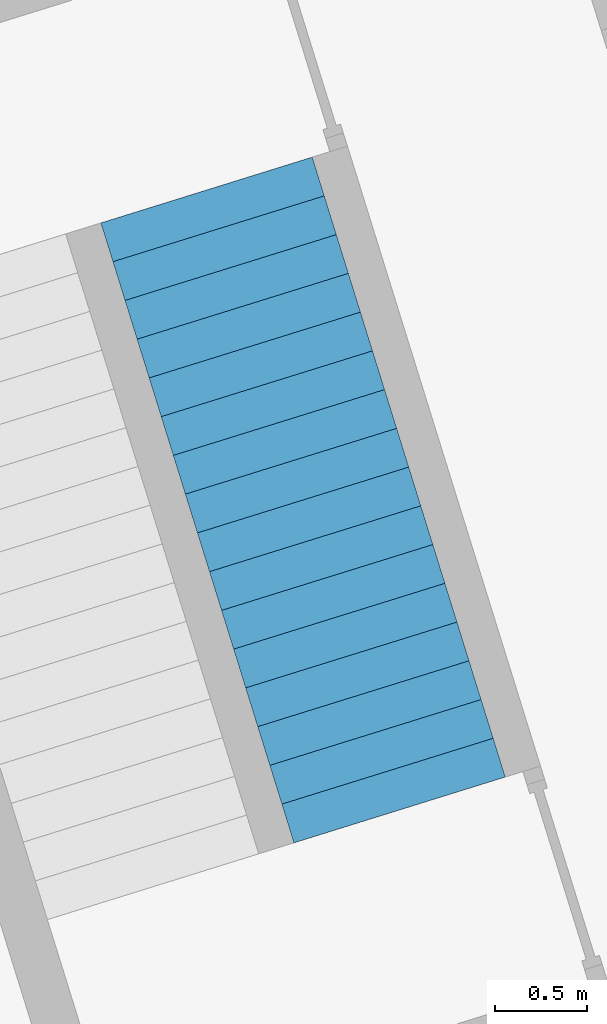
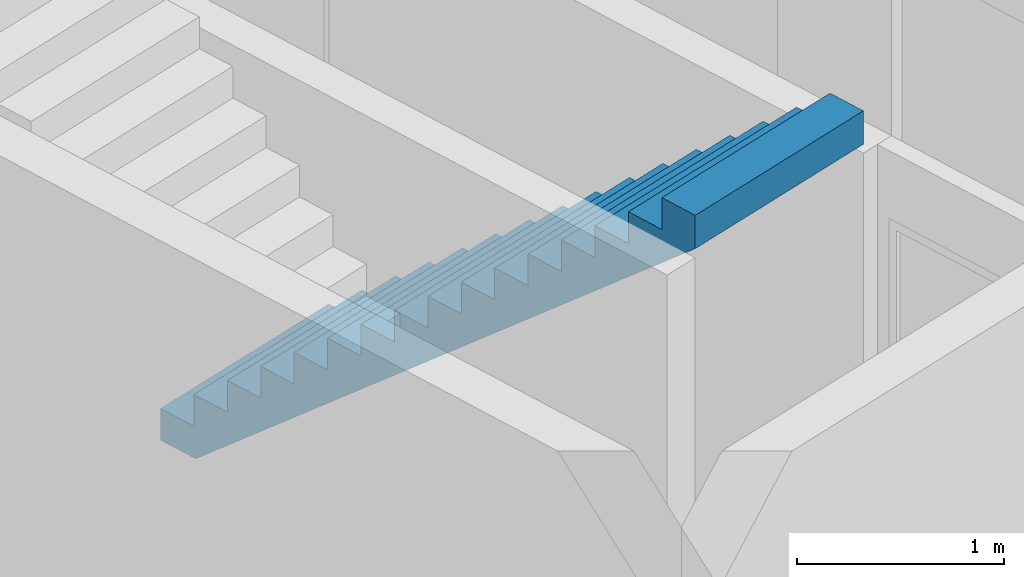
# One storey, part 4 of 4: 1 stair flight, 1 element without a shape of its own.
"""IFC4 building model written with IfcOpenShell, lengths in metres."""

from ifc_helpers import new_model, entity, si_unit, converted_unit, direction, frame, origin, place, context, subcontext, project, spatial, polygons, material, type_object, element, aggregate, save


model = new_model("IFC4")

# Units and contexts
model_context = context("Model", 3, precision=1e-05, world=origin(), true_north=direction((6.12323399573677e-17, 1.0)))
body_context = subcontext(model_context, "Body", "Model", "MODEL_VIEW")
ifc_project = project(units=[si_unit("LENGTHUNIT", "METRE"), si_unit("AREAUNIT", "SQUARE_METRE"), si_unit("VOLUMEUNIT", "CUBIC_METRE"), converted_unit("PLANEANGLEUNIT", "DEGREE", entity("IfcPlaneAngleMeasure", 0.0174532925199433), si_unit("PLANEANGLEUNIT", "RADIAN"), dimensions=[0, 0, 0, 0, 0, 0, 0])], contexts=[model_context])

# Site, building, storey
site_placement = place(None, frame((13.1347999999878, 11.9886000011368, 0.0), z_axis=(0.0, 0.0, 1.0), x_axis=(0.954770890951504, 0.297342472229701, 0.0)))
site = spatial("IfcSite", under=ifc_project, at=site_placement, Name="Schiehaven", CompositionType="ELEMENT")
building_placement = place(site_placement, origin())
building = spatial("IfcBuilding", under=site, at=building_placement, Name="VORM huis", CompositionType="ELEMENT")
storey_placement = place(building_placement, frame((0.0, 0.0, 6.9)))
storey = spatial("IfcBuildingStorey", under=building, at=storey_placement, Name="02 tweede verdieping", CompositionType="ELEMENT", Elevation=6.9)

# Stair, stair flight
stair_type = type_object("IfcStairType", Name="Trap", PredefinedType="STRAIGHT_RUN_STAIR")
stair_placement = place(storey_placement, origin())
stair = element("IfcStair", 1, at=stair_placement, inside=storey, type_object=stair_type, Name="Hoofdtrap", ObjectType="Trap", PredefinedType="STRAIGHT_RUN_STAIR")
ifc_material = material(Name="beton_gewapend_prefab-element", Category="Miscellaneous")
stair_flight_type = type_object("IfcStairFlightType", Name="Monolithic Run:NLRS_24_STRR_trap-beton prefab-monolithisch-recht_gen_rsf", PredefinedType="STRAIGHT")
stair_flight_placement = place(stair_placement, frame((66.5250000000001, 15.2899999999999, 0.0)))
stair_flight = element("IfcStairFlight", 2, at=stair_flight_placement, type_object=stair_flight_type, material=ifc_material, Name="Hoofdtrap Run 1", ObjectType="Monolithic Run:NLRS_24_STRR_trap-beton prefab-monolithisch-recht_gen_rsf", PredefinedType="STRAIGHT", context=body_context, shape_type="Tessellation", body=[
    polygons([(1.19999999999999, 3.3, 0.1875), (1.19999999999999, 3.52, 0.1875), (-1.4210854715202e-14, 3.52, 0.1875), (-1.4210854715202e-14, 3.3, 0.1875), (-1.4210854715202e-14, 3.52, 1.77635683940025e-15), (-1.4210854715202e-14, 3.3, 1.77635683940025e-15), (1.19999999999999, 3.52, 1.77635683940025e-15), (1.19999999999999, 3.3, 1.77635683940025e-15), (1.19999999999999, 3.08, 0.375000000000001), (1.19999999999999, 3.3, 0.375000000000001), (-1.4210854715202e-14, 3.3, 0.375000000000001), (-1.4210854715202e-14, 3.08, 0.375000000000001), (-1.4210854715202e-14, 3.28875121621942, -8.88178419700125e-16), (-1.4210854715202e-14, 3.08, 0.177912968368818), (1.19999999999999, 3.08, 0.177912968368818), (1.19999999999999, 3.28875121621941, -8.88178419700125e-16), (1.19999999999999, 2.86, 0.5625), (1.19999999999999, 3.08, 0.5625), (-1.4210854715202e-14, 3.08, 0.5625), (-1.4210854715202e-14, 2.86, 0.5625), (-1.4210854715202e-14, 2.86, 0.365412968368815), (1.19999999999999, 2.86, 0.365412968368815), (1.19999999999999, 2.64, 0.750000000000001), (1.19999999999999, 2.86, 0.750000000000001), (-1.4210854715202e-14, 2.86, 0.750000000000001), (-1.4210854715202e-14, 2.64, 0.750000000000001), (-1.4210854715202e-14, 2.64, 0.552912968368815), (1.19999999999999, 2.64, 0.552912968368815), (1.19999999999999, 2.42, 0.937500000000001), (1.19999999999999, 2.64, 0.937500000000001), (-1.4210854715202e-14, 2.64, 0.937500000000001), (-1.4210854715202e-14, 2.42, 0.937500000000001), (-1.4210854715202e-14, 2.42, 0.740412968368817), (1.19999999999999, 2.42, 0.740412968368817), (1.19999999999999, 2.2, 1.125), (1.19999999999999, 2.42, 1.125), (-1.4210854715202e-14, 2.42, 1.125), (-1.4210854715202e-14, 2.2, 1.125), (-1.4210854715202e-14, 2.2, 0.927912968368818), (1.19999999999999, 2.2, 0.927912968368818), (1.2, 1.98000000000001, 1.3125), (1.19999999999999, 2.2, 1.3125), (-1.4210854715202e-14, 2.2, 1.3125), (-1.4210854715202e-14, 1.98, 1.3125), (-1.4210854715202e-14, 1.98, 1.11541296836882), (1.19999999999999, 1.98, 1.11541296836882), (1.19999999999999, 1.76000000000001, 1.5), (1.19999999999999, 1.98000000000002, 1.5), (-1.4210854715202e-14, 1.98000000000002, 1.5), (-1.4210854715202e-14, 1.76000000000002, 1.5), (-1.4210854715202e-14, 1.76000000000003, 1.3029129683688), (1.19999999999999, 1.76000000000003, 1.3029129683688), (1.2, 1.54, 1.6875), (1.20000000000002, 1.76, 1.6875), (1.4210854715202e-14, 1.76, 1.6875), (0.0, 1.54, 1.6875), (1.4210854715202e-14, 1.54, 1.49041296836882), (1.20000000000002, 1.54, 1.49041296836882), (1.2, 1.32, 1.875), (1.20000000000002, 1.54, 1.875), (1.4210854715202e-14, 1.54, 1.875), (0.0, 1.32, 1.875), (1.4210854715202e-14, 1.32, 1.67791296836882), (1.20000000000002, 1.32, 1.67791296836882), (1.2, 1.1, 2.0625), (1.20000000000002, 1.32, 2.0625), (1.4210854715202e-14, 1.32, 2.0625), (0.0, 1.1, 2.0625), (1.4210854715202e-14, 1.1, 1.86541296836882), (1.20000000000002, 1.1, 1.86541296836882), (1.2, 0.879999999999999, 2.25), (1.20000000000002, 1.1, 2.25), (1.4210854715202e-14, 1.1, 2.25), (0.0, 0.879999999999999, 2.25), (1.4210854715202e-14, 0.880000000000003, 2.05291296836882), (1.20000000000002, 0.880000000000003, 2.05291296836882), (1.2, 0.66, 2.4375), (1.20000000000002, 0.879999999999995, 2.4375), (1.4210854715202e-14, 0.879999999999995, 2.4375), (0.0, 0.66, 2.4375), (1.4210854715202e-14, 0.660000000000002, 2.24041296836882), (1.20000000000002, 0.660000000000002, 2.24041296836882), (1.2, 0.44, 2.625), (1.20000000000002, 0.66, 2.625), (1.4210854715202e-14, 0.66, 2.625), (0.0, 0.44, 2.625), (1.4210854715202e-14, 0.440000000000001, 2.42791296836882), (1.20000000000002, 0.440000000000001, 2.42791296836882), (1.2, 0.219999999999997, 2.8125), (1.20000000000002, 0.439999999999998, 2.8125), (1.4210854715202e-14, 0.439999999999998, 2.8125), (0.0, 0.219999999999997, 2.8125), (1.4210854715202e-14, 0.219999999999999, 2.61541296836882), (1.20000000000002, 0.219999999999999, 2.61541296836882), (1.20000000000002, 1.77635683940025e-15, 3.0), (1.20000000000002, 0.219999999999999, 3.0), (1.4210854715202e-14, 0.219999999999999, 3.0), (1.4210854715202e-14, 1.77635683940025e-15, 3.0), (1.4210854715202e-14, 1.77635683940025e-15, 2.80291296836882), (1.20000000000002, 1.77635683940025e-15, 2.80291296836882)], [[[1, 2, 3, 4]], [[4, 3, 5, 6]], [[3, 2, 7, 5]], [[2, 1, 8, 7]], [[9, 10, 11, 12]], [[4, 6, 13, 14, 12, 11]], [[1, 4, 11, 10]], [[8, 1, 10, 9, 15, 16]], [[17, 18, 19, 20]], [[20, 19, 12, 14, 21]], [[9, 12, 19, 18]], [[18, 17, 22, 15, 9]], [[23, 24, 25, 26]], [[26, 25, 20, 21, 27]], [[17, 20, 25, 24]], [[24, 23, 28, 22, 17]], [[29, 30, 31, 32]], [[32, 31, 26, 27, 33]], [[23, 26, 31, 30]], [[30, 29, 34, 28, 23]], [[35, 36, 37, 38]], [[38, 37, 32, 33, 39]], [[29, 32, 37, 36]], [[36, 35, 40, 34, 29]], [[41, 42, 43, 44]], [[44, 43, 38, 39, 45]], [[35, 38, 43, 42]], [[42, 41, 46, 40, 35]], [[47, 48, 49, 50]], [[50, 49, 44, 45, 51]], [[41, 44, 49, 48]], [[48, 47, 52, 46, 41]], [[53, 54, 55, 56]], [[56, 55, 50, 51, 57]], [[47, 50, 55, 54]], [[54, 53, 58, 52, 47]], [[59, 60, 61, 62]], [[62, 61, 56, 57, 63]], [[53, 56, 61, 60]], [[60, 59, 64, 58, 53]], [[65, 66, 67, 68]], [[68, 67, 62, 63, 69]], [[59, 62, 67, 66]], [[66, 65, 70, 64, 59]], [[71, 72, 73, 74]], [[74, 73, 68, 69, 75]], [[65, 68, 73, 72]], [[72, 71, 76, 70, 65]], [[77, 78, 79, 80]], [[80, 79, 74, 75, 81]], [[71, 74, 79, 78]], [[78, 77, 82, 76, 71]], [[83, 84, 85, 86]], [[86, 85, 80, 81, 87]], [[77, 80, 85, 84]], [[84, 83, 88, 82, 77]], [[89, 90, 91, 92]], [[92, 91, 86, 87, 93]], [[83, 86, 91, 90]], [[90, 89, 94, 88, 83]], [[95, 96, 97, 98]], [[98, 97, 92, 93, 99]], [[89, 92, 97, 96]], [[96, 95, 100, 94, 89]], [[95, 98, 99, 100]], [[7, 8, 16, 13, 6, 5]], [[13, 16, 15, 22, 28, 34, 40, 46, 52, 58, 64, 70, 76, 82, 88, 94, 100, 99, 93, 87, 81, 75, 69, 63, 57, 51, 45, 39, 33, 27, 21, 14]]], closed=True),
])
aggregate(stair, [stair_flight])

save(model, "model.ifc")
